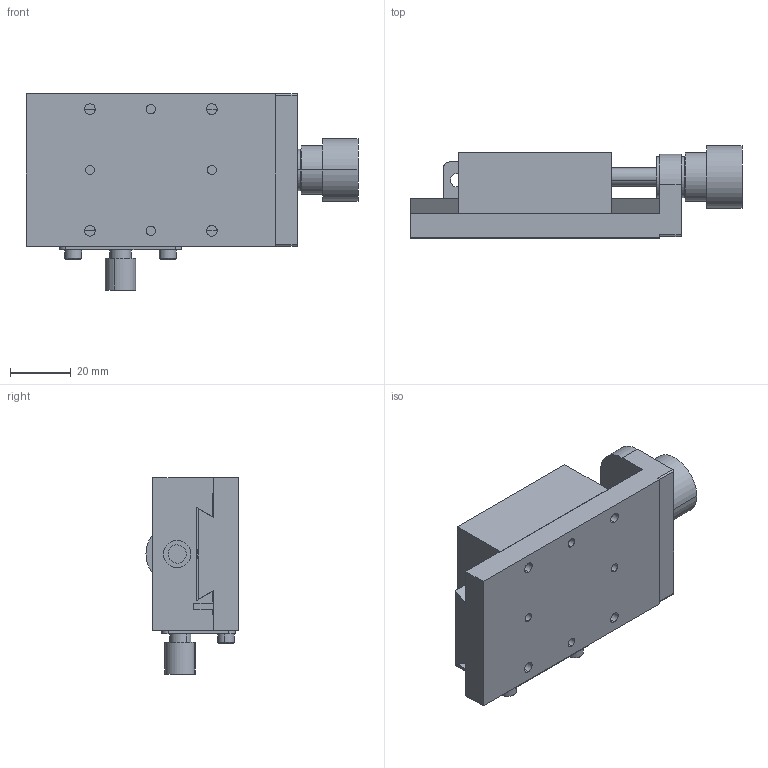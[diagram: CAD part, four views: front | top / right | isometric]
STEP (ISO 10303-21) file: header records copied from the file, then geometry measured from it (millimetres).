
FILE_DESCRIPTION (( 'STEP AP203' ), '1' );
FILE_NAME ('MF0605-89-M.STEP', '2018-10-12T07:46:49', ( 'User' ), ( 'No' ), 'SwSTEP 2.0', 'SolidWorks 2012', '' );
FILE_SCHEMA (( 'CONFIG_CONTROL_DESIGN' ));
Length unit declared in the file: millimetre
Products named in the file (3): MF0605-89-M; MF0605-89-M-B; MF0605-89-M-A
Assembly tree (2 placements, depth 2):
  MF0605-89-M
    MF0605-89-M-A
    MF0605-89-M-B
Bounding box: 109 x 30.25 x 64.45 mm (x, y, z)
Volume: 98167.6 mm3; surface area: 33671.2 mm2
Topology: 2 solids, 9 shells, 283 faces, 654 edges, 410 vertices
Faces by surface type: cylinder 139, plane 112, cone 32
Entity records: 8329 total; most frequent: DIRECTION 1506, CARTESIAN_POINT 1384, ORIENTED_EDGE 1260, EDGE_CURVE 630, AXIS2_PLACEMENT_3D 590, VERTEX_POINT 410, EDGE_LOOP 358, LINE 326
